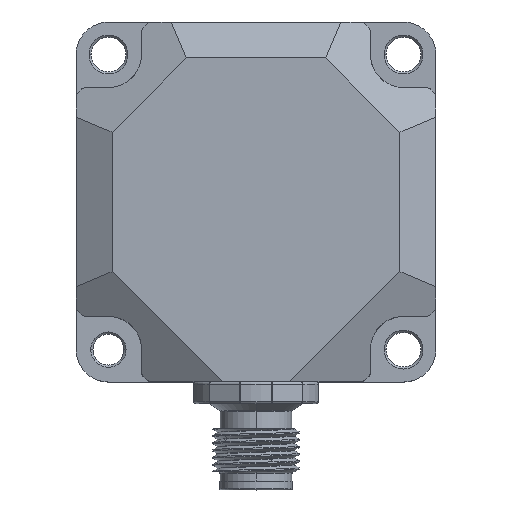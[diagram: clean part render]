
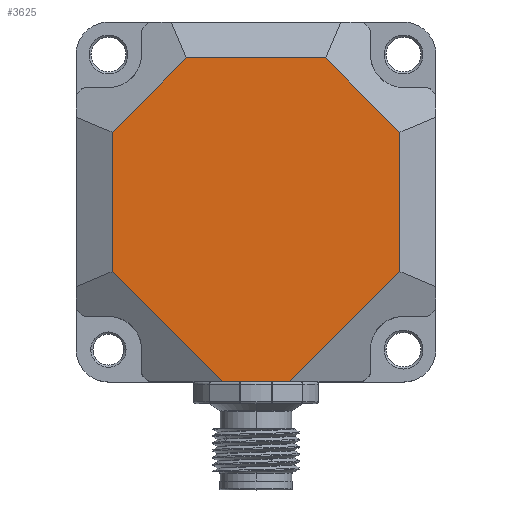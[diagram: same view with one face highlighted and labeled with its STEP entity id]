
A CAD part, top view. The second image highlights one B-rep face of the part: STEP entity #3625.
In plain terms, the highlighted planar face has unit normal (0, 0, 1).
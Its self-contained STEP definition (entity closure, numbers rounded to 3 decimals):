
#303=DIRECTION('',(0.,-1.,0.));
#304=VECTOR('',#303,19.397);
#305=CARTESIAN_POINT('',(-20.,9.698,19.5));
#306=LINE('',#305,#304);
#307=DIRECTION('',(0.707,0.707,0.));
#308=VECTOR('',#307,14.569);
#309=CARTESIAN_POINT('',(-20.,9.698,19.5));
#310=LINE('',#309,#308);
#311=DIRECTION('',(-1.,0.,0.));
#312=VECTOR('',#311,19.397);
#313=CARTESIAN_POINT('',(9.698,20.,19.5));
#314=LINE('',#313,#312);
#315=DIRECTION('',(-0.707,0.707,0.));
#316=VECTOR('',#315,14.569);
#317=CARTESIAN_POINT('',(20.,9.698,19.5));
#318=LINE('',#317,#316);
#319=DIRECTION('',(0.,1.,0.));
#320=VECTOR('',#319,19.397);
#321=CARTESIAN_POINT('',(20.,-9.698,19.5));
#322=LINE('',#321,#320);
#323=DIRECTION('',(-0.707,-0.707,0.));
#324=VECTOR('',#323,21.64);
#325=CARTESIAN_POINT('',(20.,-9.698,19.5));
#326=LINE('',#325,#324);
#327=DIRECTION('',(1.,0.,0.));
#328=VECTOR('',#327,9.397);
#329=CARTESIAN_POINT('',(-4.698,-25.,19.5));
#330=LINE('',#329,#328);
#331=DIRECTION('',(0.707,-0.707,0.));
#332=VECTOR('',#331,21.64);
#333=CARTESIAN_POINT('',(-20.,-9.698,19.5));
#334=LINE('',#333,#332);
#3264=CARTESIAN_POINT('',(-4.698,-25.,19.5));
#3265=CARTESIAN_POINT('',(4.698,-25.,19.5));
#3266=VERTEX_POINT('',#3264);
#3267=VERTEX_POINT('',#3265);
#3268=CARTESIAN_POINT('',(-20.,-9.698,19.5));
#3270=VERTEX_POINT('',#3268);
#3274=CARTESIAN_POINT('',(-20.,9.698,19.5));
#3275=VERTEX_POINT('',#3274);
#3276=CARTESIAN_POINT('',(-9.698,20.,19.5));
#3277=VERTEX_POINT('',#3276);
#3282=CARTESIAN_POINT('',(9.698,20.,19.5));
#3283=VERTEX_POINT('',#3282);
#3284=CARTESIAN_POINT('',(20.,9.698,19.5));
#3286=VERTEX_POINT('',#3284);
#3290=CARTESIAN_POINT('',(20.,-9.698,19.5));
#3291=VERTEX_POINT('',#3290);
#3606=CARTESIAN_POINT('',(0.,0.,19.5));
#3607=DIRECTION('',(0.,0.,1.));
#3608=DIRECTION('',(1.,0.,0.));
#3609=AXIS2_PLACEMENT_3D('',#3606,#3607,#3608);
#3610=PLANE('',#3609);
#3611=ORIENTED_EDGE('',*,*,#3568,.F.);
#3612=ORIENTED_EDGE('',*,*,#3553,.T.);
#3613=ORIENTED_EDGE('',*,*,#3519,.F.);
#3615=ORIENTED_EDGE('',*,*,#3614,.F.);
#3617=ORIENTED_EDGE('',*,*,#3616,.F.);
#3619=ORIENTED_EDGE('',*,*,#3618,.T.);
#3621=ORIENTED_EDGE('',*,*,#3620,.F.);
#3622=ORIENTED_EDGE('',*,*,#3579,.F.);
#3623=EDGE_LOOP('',(#3611,#3612,#3613,#3615,#3617,#3619,#3621,#3622));
#3624=FACE_OUTER_BOUND('',#3623,.F.);
#3519=EDGE_CURVE('',#3283,#3277,#314,.T.);
#3553=EDGE_CURVE('',#3275,#3277,#310,.T.);
#3568=EDGE_CURVE('',#3275,#3270,#306,.T.);
#3579=EDGE_CURVE('',#3270,#3266,#334,.T.);
#3614=EDGE_CURVE('',#3286,#3283,#318,.T.);
#3616=EDGE_CURVE('',#3291,#3286,#322,.T.);
#3618=EDGE_CURVE('',#3291,#3267,#326,.T.);
#3620=EDGE_CURVE('',#3266,#3267,#330,.T.);
#3625=ADVANCED_FACE('',(#3624),#3610,.T.);
